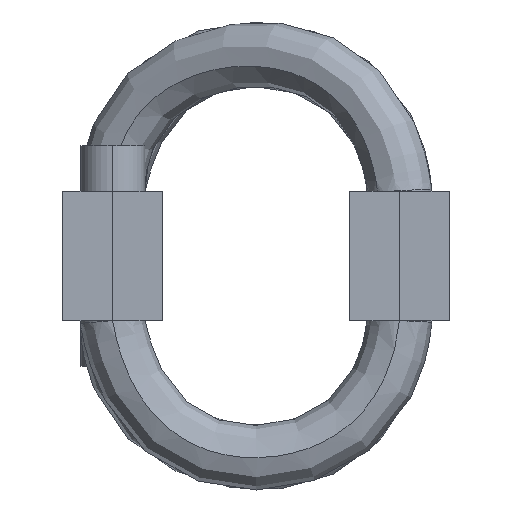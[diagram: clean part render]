
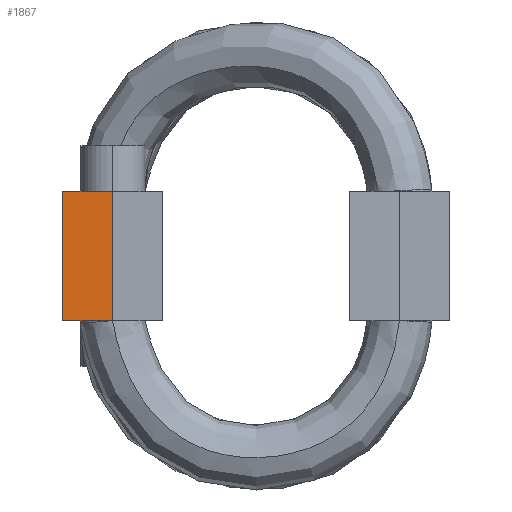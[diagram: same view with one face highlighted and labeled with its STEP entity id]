
A CAD part, left-side view. The second image highlights one B-rep face of the part: STEP entity #1867.
In plain terms, the highlighted planar face has unit normal (-1, 0, 0).
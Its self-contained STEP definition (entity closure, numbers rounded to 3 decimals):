
#1867 = ADVANCED_FACE ( 'NONE', ( #25435 ), #5859, .T. ) ;
#2494 = LINE ( 'NONE', #7421, #7452 ) ;
#2960 = EDGE_CURVE ( 'NONE', #4573, #25040, #24380, .T. ) ;
#3388 = LINE ( 'NONE', #18833, #25873 ) ;
#4573 = VERTEX_POINT ( 'NONE', #8885 ) ;
#5537 = CARTESIAN_POINT ( 'NONE',  ( -88.9, 38., -12.7 ) ) ;
#5859 = PLANE ( 'NONE',  #7402 ) ;
#5947 = CARTESIAN_POINT ( 'NONE',  ( -88.9, 33.1, 0. ) ) ;
#6209 = DIRECTION ( 'NONE',  ( 0., -1., 0. ) ) ;
#6442 = VERTEX_POINT ( 'NONE', #20161 ) ;
#7060 = ORIENTED_EDGE ( 'NONE', *, *, #2960, .F. ) ;
#7402 = AXIS2_PLACEMENT_3D ( 'NONE', #5947, #10169, #24958 ) ;
#7421 = CARTESIAN_POINT ( 'NONE',  ( -88.9, 28.2, -12.7 ) ) ;
#7452 = VECTOR ( 'NONE', #20059, 1000. ) ;
#7536 = VECTOR ( 'NONE', #17896, 1000. ) ;
#8885 = CARTESIAN_POINT ( 'NONE',  ( -88.9, 28.2, -12.7 ) ) ;
#10169 = DIRECTION ( 'NONE',  ( -1., 0., 0. ) ) ;
#10737 = EDGE_LOOP ( 'NONE', ( #20747, #23253, #7060, #15695 ) ) ;
#13153 = CARTESIAN_POINT ( 'NONE',  ( -88.9, 38., -12.7 ) ) ;
#13704 = VECTOR ( 'NONE', #24305, 1000. ) ;
#15695 = ORIENTED_EDGE ( 'NONE', *, *, #26659, .F. ) ;
#15822 = CARTESIAN_POINT ( 'NONE',  ( -88.9, 38., -12.7 ) ) ;
#17896 = DIRECTION ( 'NONE',  ( 0., 1., 0. ) ) ;
#18833 = CARTESIAN_POINT ( 'NONE',  ( -88.9, 38., 12.7 ) ) ;
#19606 = EDGE_CURVE ( 'NONE', #23781, #6442, #3388, .T. ) ;
#20059 = DIRECTION ( 'NONE',  ( 0., 0., -1. ) ) ;
#20161 = CARTESIAN_POINT ( 'NONE',  ( -88.9, 28.2, 12.7 ) ) ;
#20747 = ORIENTED_EDGE ( 'NONE', *, *, #19606, .F. ) ;
#20766 = CARTESIAN_POINT ( 'NONE',  ( -88.9, 38., 12.7 ) ) ;
#23253 = ORIENTED_EDGE ( 'NONE', *, *, #26628, .F. ) ;
#23781 = VERTEX_POINT ( 'NONE', #20766 ) ;
#24293 = LINE ( 'NONE', #15822, #13704 ) ;
#24305 = DIRECTION ( 'NONE',  ( 0., 0., 1. ) ) ;
#24380 = LINE ( 'NONE', #13153, #7536 ) ;
#24958 = DIRECTION ( 'NONE',  ( 0., 0., 1. ) ) ;
#25040 = VERTEX_POINT ( 'NONE', #5537 ) ;
#25435 = FACE_OUTER_BOUND ( 'NONE', #10737, .T. ) ;
#25873 = VECTOR ( 'NONE', #6209, 1000. ) ;
#26628 = EDGE_CURVE ( 'NONE', #25040, #23781, #24293, .T. ) ;
#26659 = EDGE_CURVE ( 'NONE', #6442, #4573, #2494, .T. ) ;
